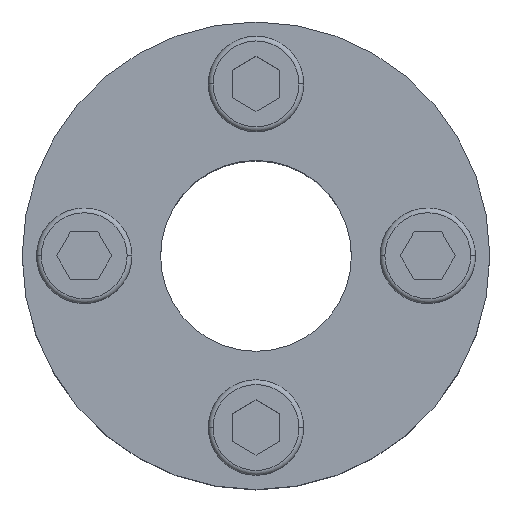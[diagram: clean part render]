
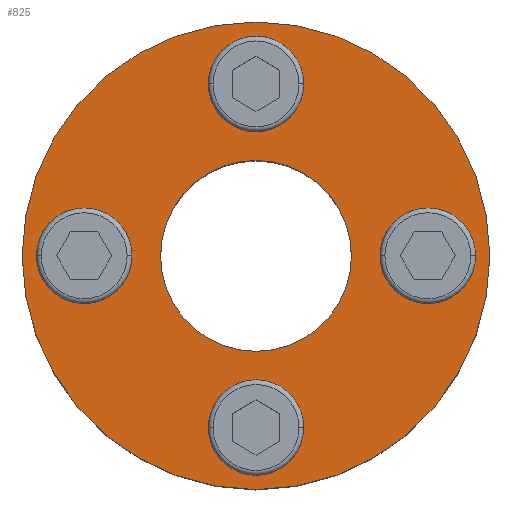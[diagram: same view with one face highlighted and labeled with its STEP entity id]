
A CAD part, top view. The second image highlights one B-rep face of the part: STEP entity #825.
In plain terms, the highlighted planar face has unit normal (0, 0, 1).
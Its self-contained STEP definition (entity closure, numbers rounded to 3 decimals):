
#7 = CARTESIAN_POINT ( 'NONE',  ( 13., 0., 0. ) ) ;
#12 = EDGE_LOOP ( 'NONE', ( #681, #869 ) ) ;
#14 = DIRECTION ( 'NONE',  ( 0., 0., 1. ) ) ;
#29 = VERTEX_POINT ( 'NONE', #238 ) ;
#32 = EDGE_CURVE ( 'NONE', #1460, #342, #1299, .T. ) ;
#51 = CARTESIAN_POINT ( 'NONE',  ( -10., 0., 0. ) ) ;
#56 = CARTESIAN_POINT ( 'NONE',  ( 10., 0., 0. ) ) ;
#69 = DIRECTION ( 'NONE',  ( -1., 0., 0. ) ) ;
#73 = ORIENTED_EDGE ( 'NONE', *, *, #1482, .F. ) ;
#80 = EDGE_CURVE ( 'NONE', #1515, #401, #634, .T. ) ;
#91 = VERTEX_POINT ( 'NONE', #1144 ) ;
#96 = DIRECTION ( 'NONE',  ( 1., 0., 0. ) ) ;
#131 = CARTESIAN_POINT ( 'NONE',  ( -18., 0., 0. ) ) ;
#133 = AXIS2_PLACEMENT_3D ( 'NONE', #622, #745, #1130 ) ;
#138 = FACE_BOUND ( 'NONE', #1027, .T. ) ;
#140 = ORIENTED_EDGE ( 'NONE', *, *, #32, .T. ) ;
#155 = VERTEX_POINT ( 'NONE', #7 ) ;
#157 = CIRCLE ( 'NONE', #445, 5. ) ;
#160 = ORIENTED_EDGE ( 'NONE', *, *, #1418, .F. ) ;
#167 = CARTESIAN_POINT ( 'NONE',  ( 5., 18., 0. ) ) ;
#170 = EDGE_CURVE ( 'NONE', #1479, #1544, #1546, .T. ) ;
#172 = PLANE ( 'NONE',  #858 ) ;
#213 = AXIS2_PLACEMENT_3D ( 'NONE', #1484, #816, #1618 ) ;
#214 = CARTESIAN_POINT ( 'NONE',  ( 24.5, 0., 0. ) ) ;
#236 = DIRECTION ( 'NONE',  ( 1., 0., 0. ) ) ;
#238 = CARTESIAN_POINT ( 'NONE',  ( 23., 0., 0. ) ) ;
#241 = CIRCLE ( 'NONE', #133, 5. ) ;
#293 = CIRCLE ( 'NONE', #832, 24.5 ) ;
#327 = AXIS2_PLACEMENT_3D ( 'NONE', #1023, #1678, #236 ) ;
#342 = VERTEX_POINT ( 'NONE', #1208 ) ;
#354 = EDGE_LOOP ( 'NONE', ( #160, #422 ) ) ;
#360 = CIRCLE ( 'NONE', #678, 5. ) ;
#373 = AXIS2_PLACEMENT_3D ( 'NONE', #1009, #1535, #378 ) ;
#378 = DIRECTION ( 'NONE',  ( -1., 0., 0. ) ) ;
#390 = DIRECTION ( 'NONE',  ( 0., 0., 1. ) ) ;
#396 = AXIS2_PLACEMENT_3D ( 'NONE', #970, #718, #701 ) ;
#401 = VERTEX_POINT ( 'NONE', #167 ) ;
#422 = ORIENTED_EDGE ( 'NONE', *, *, #597, .F. ) ;
#445 = AXIS2_PLACEMENT_3D ( 'NONE', #1244, #467, #1222 ) ;
#454 = FACE_OUTER_BOUND ( 'NONE', #1332, .T. ) ;
#464 = EDGE_CURVE ( 'NONE', #342, #1460, #293, .T. ) ;
#467 = DIRECTION ( 'NONE',  ( 0., 0., 1. ) ) ;
#482 = CARTESIAN_POINT ( 'NONE',  ( 0., 0., 0. ) ) ;
#503 = ORIENTED_EDGE ( 'NONE', *, *, #1581, .F. ) ;
#530 = ORIENTED_EDGE ( 'NONE', *, *, #80, .F. ) ;
#536 = CARTESIAN_POINT ( 'NONE',  ( 0., -18., 0. ) ) ;
#549 = AXIS2_PLACEMENT_3D ( 'NONE', #131, #14, #785 ) ;
#590 = AXIS2_PLACEMENT_3D ( 'NONE', #1362, #1345, #1628 ) ;
#597 = EDGE_CURVE ( 'NONE', #1543, #1569, #1261, .T. ) ;
#622 = CARTESIAN_POINT ( 'NONE',  ( 18., 0., 0. ) ) ;
#625 = EDGE_CURVE ( 'NONE', #930, #91, #360, .T. ) ;
#634 = CIRCLE ( 'NONE', #373, 5. ) ;
#678 = AXIS2_PLACEMENT_3D ( 'NONE', #536, #390, #1463 ) ;
#681 = ORIENTED_EDGE ( 'NONE', *, *, #1175, .F. ) ;
#699 = CIRCLE ( 'NONE', #396, 5. ) ;
#701 = DIRECTION ( 'NONE',  ( -1., 0., 0. ) ) ;
#711 = CARTESIAN_POINT ( 'NONE',  ( -5., 18., 0. ) ) ;
#718 = DIRECTION ( 'NONE',  ( 0., 0., 1. ) ) ;
#719 = CIRCLE ( 'NONE', #1142, 10. ) ;
#722 = AXIS2_PLACEMENT_3D ( 'NONE', #1272, #1401, #96 ) ;
#728 = EDGE_CURVE ( 'NONE', #91, #930, #157, .T. ) ;
#745 = DIRECTION ( 'NONE',  ( 0., 0., 1. ) ) ;
#785 = DIRECTION ( 'NONE',  ( -1., 0., 0. ) ) ;
#797 = FACE_BOUND ( 'NONE', #354, .T. ) ;
#816 = DIRECTION ( 'NONE',  ( 0., 0., 1. ) ) ;
#825 = ADVANCED_FACE ( 'NONE', ( #903, #1094, #138, #1391, #797, #454 ), #172, .F. ) ;
#832 = AXIS2_PLACEMENT_3D ( 'NONE', #1350, #1631, #979 ) ;
#850 = CARTESIAN_POINT ( 'NONE',  ( -10., 0., 0. ) ) ;
#858 = AXIS2_PLACEMENT_3D ( 'NONE', #850, #1355, #69 ) ;
#867 = CARTESIAN_POINT ( 'NONE',  ( -13., 0., 0. ) ) ;
#869 = ORIENTED_EDGE ( 'NONE', *, *, #170, .F. ) ;
#877 = EDGE_CURVE ( 'NONE', #155, #29, #699, .T. ) ;
#878 = DIRECTION ( 'NONE',  ( 0., 0., 1. ) ) ;
#900 = ORIENTED_EDGE ( 'NONE', *, *, #877, .F. ) ;
#903 = FACE_BOUND ( 'NONE', #1097, .T. ) ;
#926 = ORIENTED_EDGE ( 'NONE', *, *, #625, .F. ) ;
#930 = VERTEX_POINT ( 'NONE', #1367 ) ;
#970 = CARTESIAN_POINT ( 'NONE',  ( 18., 0., 0. ) ) ;
#979 = DIRECTION ( 'NONE',  ( 1., 0., 0. ) ) ;
#1009 = CARTESIAN_POINT ( 'NONE',  ( 0., 18., 0. ) ) ;
#1023 = CARTESIAN_POINT ( 'NONE',  ( 0., 0., 0. ) ) ;
#1027 = EDGE_LOOP ( 'NONE', ( #1306, #926 ) ) ;
#1094 = FACE_BOUND ( 'NONE', #1294, .T. ) ;
#1097 = EDGE_LOOP ( 'NONE', ( #530, #503 ) ) ;
#1130 = DIRECTION ( 'NONE',  ( -1., 0., 0. ) ) ;
#1134 = ORIENTED_EDGE ( 'NONE', *, *, #464, .T. ) ;
#1142 = AXIS2_PLACEMENT_3D ( 'NONE', #482, #878, #1655 ) ;
#1144 = CARTESIAN_POINT ( 'NONE',  ( -5., -18., 0. ) ) ;
#1175 = EDGE_CURVE ( 'NONE', #1544, #1479, #1642, .T. ) ;
#1208 = CARTESIAN_POINT ( 'NONE',  ( -24.5, 0., 0. ) ) ;
#1222 = DIRECTION ( 'NONE',  ( -1., 0., 0. ) ) ;
#1244 = CARTESIAN_POINT ( 'NONE',  ( 0., -18., 0. ) ) ;
#1261 = CIRCLE ( 'NONE', #327, 10. ) ;
#1272 = CARTESIAN_POINT ( 'NONE',  ( 0., 0., 0. ) ) ;
#1294 = EDGE_LOOP ( 'NONE', ( #900, #73 ) ) ;
#1299 = CIRCLE ( 'NONE', #722, 24.5 ) ;
#1306 = ORIENTED_EDGE ( 'NONE', *, *, #728, .F. ) ;
#1323 = CIRCLE ( 'NONE', #590, 5. ) ;
#1332 = EDGE_LOOP ( 'NONE', ( #140, #1134 ) ) ;
#1345 = DIRECTION ( 'NONE',  ( 0., 0., 1. ) ) ;
#1350 = CARTESIAN_POINT ( 'NONE',  ( 0., 0., 0. ) ) ;
#1355 = DIRECTION ( 'NONE',  ( 0., 0., -1. ) ) ;
#1362 = CARTESIAN_POINT ( 'NONE',  ( 0., 18., 0. ) ) ;
#1367 = CARTESIAN_POINT ( 'NONE',  ( 5., -18., 0. ) ) ;
#1391 = FACE_BOUND ( 'NONE', #12, .T. ) ;
#1401 = DIRECTION ( 'NONE',  ( 0., 0., 1. ) ) ;
#1418 = EDGE_CURVE ( 'NONE', #1569, #1543, #719, .T. ) ;
#1460 = VERTEX_POINT ( 'NONE', #214 ) ;
#1463 = DIRECTION ( 'NONE',  ( -1., 0., 0. ) ) ;
#1476 = CARTESIAN_POINT ( 'NONE',  ( -23., 0., 0. ) ) ;
#1479 = VERTEX_POINT ( 'NONE', #867 ) ;
#1482 = EDGE_CURVE ( 'NONE', #29, #155, #241, .T. ) ;
#1484 = CARTESIAN_POINT ( 'NONE',  ( -18., 0., 0. ) ) ;
#1515 = VERTEX_POINT ( 'NONE', #711 ) ;
#1535 = DIRECTION ( 'NONE',  ( 0., 0., 1. ) ) ;
#1543 = VERTEX_POINT ( 'NONE', #51 ) ;
#1544 = VERTEX_POINT ( 'NONE', #1476 ) ;
#1546 = CIRCLE ( 'NONE', #549, 5. ) ;
#1569 = VERTEX_POINT ( 'NONE', #56 ) ;
#1581 = EDGE_CURVE ( 'NONE', #401, #1515, #1323, .T. ) ;
#1618 = DIRECTION ( 'NONE',  ( -1., 0., 0. ) ) ;
#1628 = DIRECTION ( 'NONE',  ( -1., 0., 0. ) ) ;
#1631 = DIRECTION ( 'NONE',  ( 0., 0., 1. ) ) ;
#1642 = CIRCLE ( 'NONE', #213, 5. ) ;
#1655 = DIRECTION ( 'NONE',  ( 1., 0., 0. ) ) ;
#1678 = DIRECTION ( 'NONE',  ( 0., 0., 1. ) ) ;
